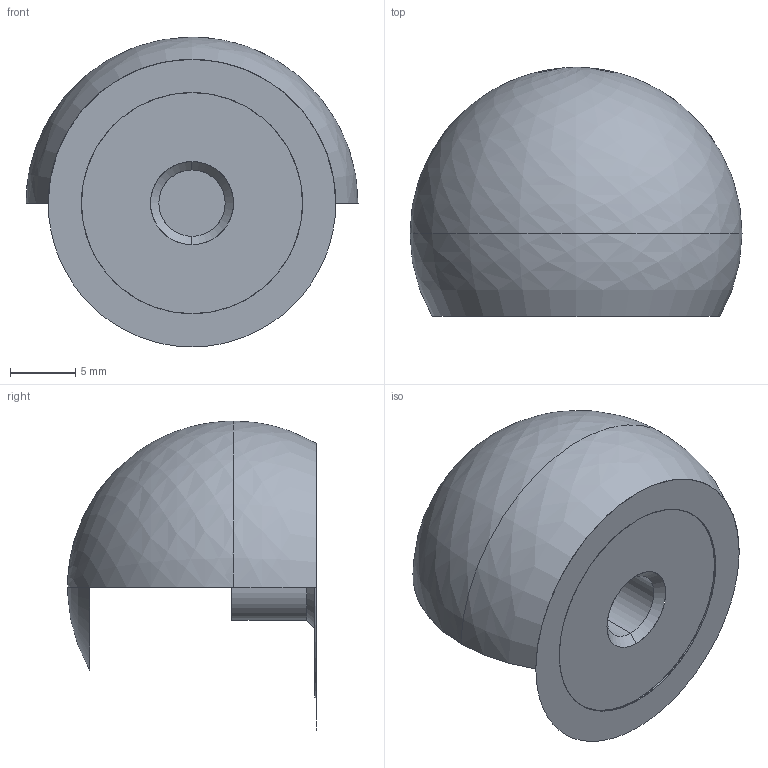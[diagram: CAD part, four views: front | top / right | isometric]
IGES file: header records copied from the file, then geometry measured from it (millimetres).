
Start section: SolidWorks IGES file using analytic representation for surfaces
Global section: file name: D:\Solid_parts\MECHeDESIGN\Bal-Tec\Catalog 105-A\Distribution\IGES\100-TBR-T.IGS; native system: SolidWorks 2005 by SolidWorks Corporation; preprocessor: SolidWorks 2005 by SolidWorks Corporation; author: rvillegas; date: 061205.184116; units: inch
Bounding box: 25.4 x 19.05 x 23.7 mm (x, y, z)
Surface area: 1818.3 mm2 (no closed solid volume)
Topology: 0 solids, 0 shells, 11 faces, 192 edges, 191 vertices
Faces by surface type: revolution 8, bspline 3
